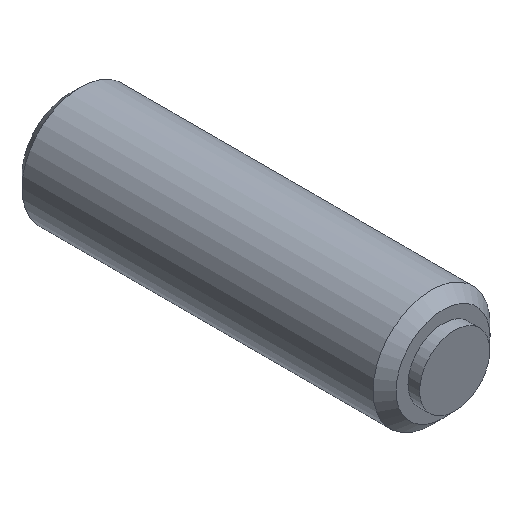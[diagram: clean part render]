
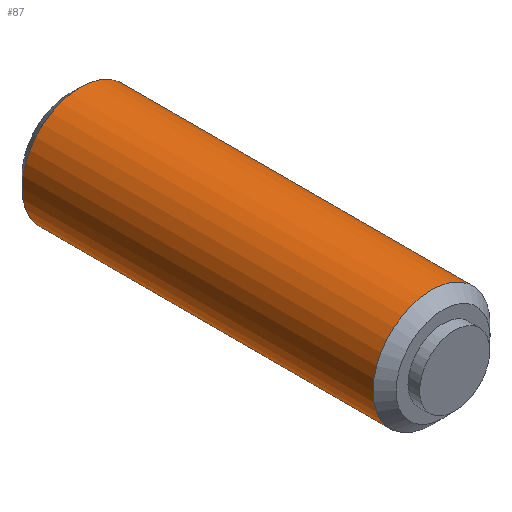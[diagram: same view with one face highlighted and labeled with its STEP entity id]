
A CAD part, isometric view. The second image highlights one B-rep face of the part: STEP entity #87.
In plain terms, the highlighted cylindrical face has radius 2.5 mm (diameter 5 mm), a full revolution.
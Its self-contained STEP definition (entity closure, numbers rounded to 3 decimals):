
#87 = ADVANCED_FACE( '', ( #118, #119 ), #120, .T. );
#118 = FACE_OUTER_BOUND( '', #152, .T. );
#119 = FACE_OUTER_BOUND( '', #153, .T. );
#120 = CYLINDRICAL_SURFACE( '', #154, 2.5 );
#152 = EDGE_LOOP( '', ( #238 ) );
#153 = EDGE_LOOP( '', ( #239 ) );
#154 = AXIS2_PLACEMENT_3D( '', #240, #241, #242 );
#238 = ORIENTED_EDGE( '', *, *, #270, .F. );
#239 = ORIENTED_EDGE( '', *, *, #271, .T. );
#240 = CARTESIAN_POINT( '', ( 0., 0., 0. ) );
#241 = DIRECTION( '', ( 0., 1., 0. ) );
#242 = DIRECTION( '', ( 0., 0., -1. ) );
#270 = EDGE_CURVE( '', #310, #310, #311, .T. );
#271 = EDGE_CURVE( '', #312, #312, #313, .T. );
#310 = VERTEX_POINT( '', #370 );
#311 = CIRCLE( '', #371, 2.5 );
#312 = VERTEX_POINT( '', #372 );
#313 = CIRCLE( '', #373, 2.5 );
#370 = CARTESIAN_POINT( '', ( 0., 0.991, -2.5 ) );
#371 = AXIS2_PLACEMENT_3D( '', #404, #405, #406 );
#372 = CARTESIAN_POINT( '', ( 0., 16.01, -2.5 ) );
#373 = AXIS2_PLACEMENT_3D( '', #407, #408, #409 );
#404 = CARTESIAN_POINT( '', ( 0., 0.991, 0. ) );
#405 = DIRECTION( '', ( 0., -1., 0. ) );
#406 = DIRECTION( '', ( 0., 0., -1. ) );
#407 = CARTESIAN_POINT( '', ( 0., 16.01, 0. ) );
#408 = DIRECTION( '', ( 0., -1., 0. ) );
#409 = DIRECTION( '', ( 0., 0., -1. ) );
